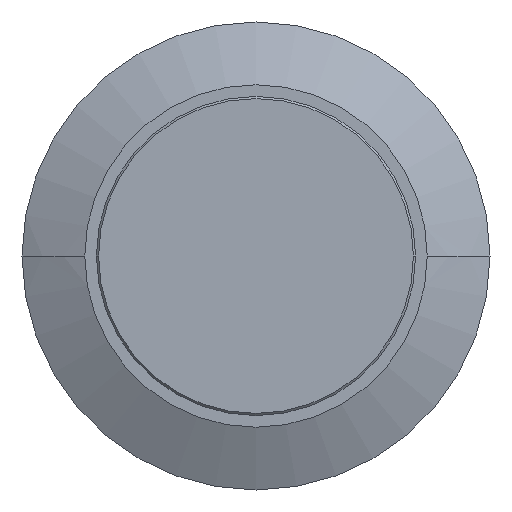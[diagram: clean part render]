
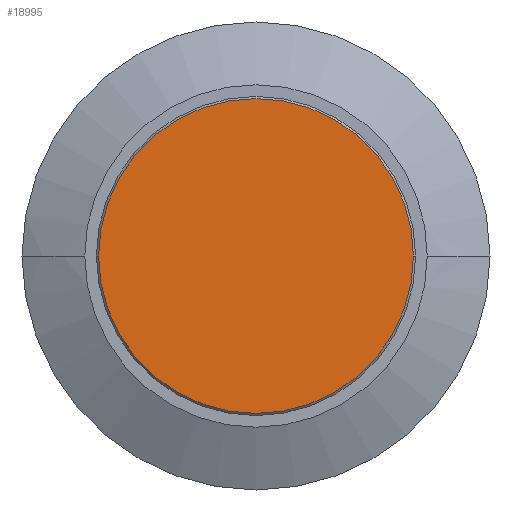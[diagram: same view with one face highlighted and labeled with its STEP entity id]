
A CAD part, left-side view. The second image highlights one B-rep face of the part: STEP entity #18995.
In plain terms, the highlighted planar face has unit normal (-1, 0, 0).
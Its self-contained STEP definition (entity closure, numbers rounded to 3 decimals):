
#18945=CARTESIAN_POINT('',(-2.13,0.,
0.));
#18946=DIRECTION('',(1.,0.,0.));
#18947=DIRECTION('',(0.,1.,0.));
#18948=AXIS2_PLACEMENT_3D('',#18945,#18946,#18947);
#18959=CARTESIAN_POINT('',(-2.13,0.,
0.));
#18960=DIRECTION('',(1.,0.,0.));
#18961=DIRECTION('',(0.,-1.,0.));
#18962=AXIS2_PLACEMENT_3D('',#18959,#18960,#18961);
#18976=CARTESIAN_POINT('',(-2.13,-7.4,0.));
#18977=CARTESIAN_POINT('',(-2.13,7.4,0.));
#18978=VERTEX_POINT('',#18976);
#18979=VERTEX_POINT('',#18977);
#18984=CARTESIAN_POINT('',(-2.13,0.,0.));
#18985=DIRECTION('',(1.,0.,0.));
#18986=DIRECTION('',(0.,-1.,0.));
#18987=AXIS2_PLACEMENT_3D('',#18984,#18985,#18986);
#18988=PLANE('',#18987);
#18990=ORIENTED_EDGE('',*,*,#18989,.T.);
#18992=ORIENTED_EDGE('',*,*,#18991,.T.);
#18993=EDGE_LOOP('',(#18990,#18992));
#18994=FACE_OUTER_BOUND('',#18993,.F.);
#18995=ADVANCED_FACE('',(#18994),#18988,.F.);
#18949=CIRCLE('',#18948,7.4);
#18963=CIRCLE('',#18962,7.4);
#18989=EDGE_CURVE('',#18978,#18979,#18963,.T.);
#18991=EDGE_CURVE('',#18979,#18978,#18949,.T.);
